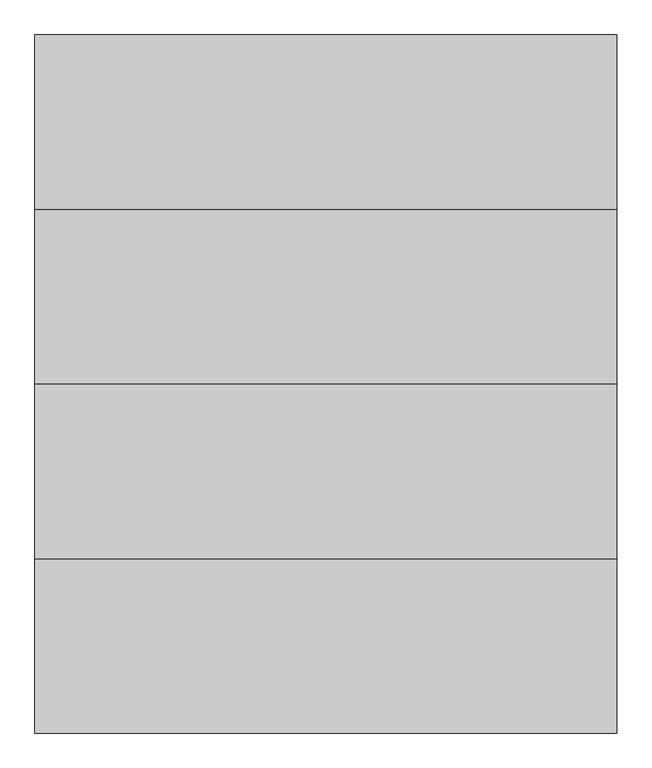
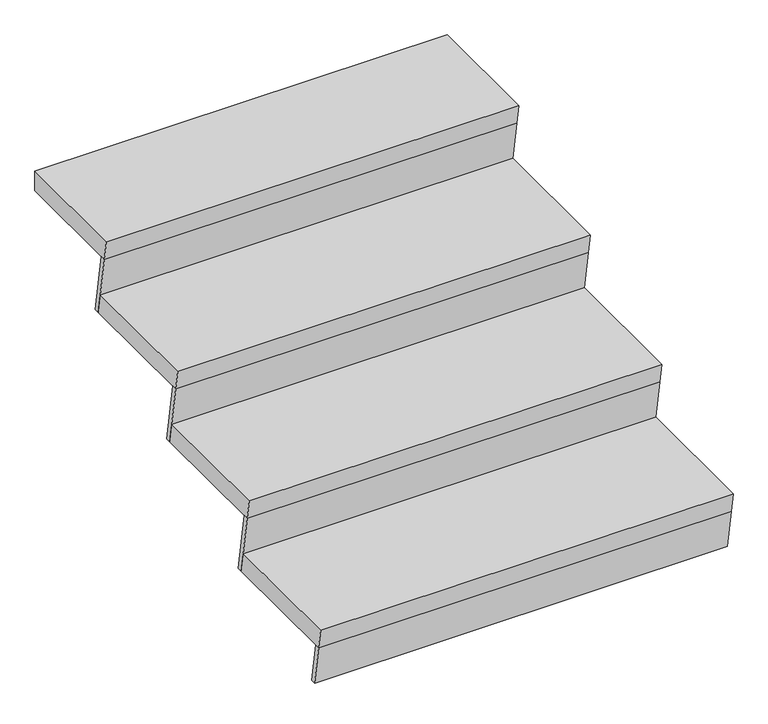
"""IFC4 building model written with IfcOpenShell, lengths in millimetres: stair flight geometry, Проступь 50 мм, свес 25 мм, подступенок 13 мм."""

from ifc_helpers import new_model, si_unit, frame, origin, place, context, project, spatial, polyline, outline, extrude, source, transform, mapped, element, save


def stair_flight_27ba9170(model_context):
    return source(origin(), model_context, "Body", "SweptSolid", [
        extrude(outline(polyline([(4392.3976828, 4650.0), (4717.3976828, 4650.0), (4725.7310161, 4600.0), (4400.7310161, 4600.0), (4392.3976828, 4650.0)])), frame((-12817.2117644, 0.0, 0.0), z_axis=(1.0, 0.0, 0.0), x_axis=(0.0, 1.0, 0.0)), (0.0, 0.0, 1.0), 1000.0),
        extrude(outline(polyline([(4400.7310161, 4600.0), (4413.4034381, 4600.0), (4430.0701047, 4500.0), (4417.3976828, 4500.0), (4400.7310161, 4600.0)])), frame((-12817.2117644, 0.0, 0.0), z_axis=(1.0, 0.0, 0.0), x_axis=(0.0, 1.0, 0.0)), (0.0, 0.0, 1.0), 1000.0),
        extrude(outline(polyline([(4700.7310161, 4750.0), (4713.4034381, 4750.0), (4738.4034381, 4600.0), (4725.7310161, 4600.0), (4700.7310161, 4750.0)])), frame((-12817.2117644, 0.0, 0.0), z_axis=(1.0, 0.0, 0.0), x_axis=(0.0, 1.0, 0.0)), (0.0, 0.0, 1.0), 1000.0),
        extrude(outline(polyline([(4692.3976828, 4800.0), (5017.3976828, 4800.0), (5025.7310161, 4750.0), (4700.7310161, 4750.0), (4692.3976828, 4800.0)])), frame((-12817.2117644, 0.0, 0.0), z_axis=(1.0, 0.0, 0.0), x_axis=(0.0, 1.0, 0.0)), (0.0, 0.0, 1.0), 1000.0),
        extrude(outline(polyline([(5000.7310161, 4900.0), (5013.4034381, 4900.0), (5038.4034381, 4750.0), (5025.7310161, 4750.0), (5000.7310161, 4900.0)])), frame((-12817.2117644, 0.0, 0.0), z_axis=(1.0, 0.0, 0.0), x_axis=(0.0, 1.0, 0.0)), (0.0, 0.0, 1.0), 1000.0),
        extrude(outline(polyline([(4992.3976828, 4950.0), (5317.3976828, 4950.0), (5325.7310161, 4900.0), (5000.7310161, 4900.0), (4992.3976828, 4950.0)])), frame((-12817.2117644, 0.0, 0.0), z_axis=(1.0, 0.0, 0.0), x_axis=(0.0, 1.0, 0.0)), (0.0, 0.0, 1.0), 1000.0),
        extrude(outline(polyline([(5300.7310161, 5050.0), (5313.4034381, 5050.0), (5338.4034381, 4900.0), (5325.7310161, 4900.0), (5300.7310161, 5050.0)])), frame((-12817.2117644, 0.0, 0.0), z_axis=(1.0, 0.0, 0.0), x_axis=(0.0, 1.0, 0.0)), (0.0, 0.0, 1.0), 1000.0),
        extrude(outline(polyline([(5292.3976828, 5100.0), (5592.3976828, 5100.0), (5592.3976828, 5050.0), (5300.7310161, 5050.0), (5292.3976828, 5100.0)])), frame((-12817.2117644, 0.0, 0.0), z_axis=(1.0, 0.0, 0.0), x_axis=(0.0, 1.0, 0.0)), (0.0, 0.0, 1.0), 1000.0),
    ])


if __name__ == "__main__":
    model = new_model("IFC4")
    model_context = context("Model", 3, world=origin())
    ifc_project = project(units=[si_unit("LENGTHUNIT", "METRE", prefix="MILLI")], contexts=[model_context])
    site = spatial("IfcSite", under=ifc_project)
    building = spatial("IfcBuilding", under=site)
    placement = place(None, origin())
    stair_flight_shape = stair_flight_27ba9170(model_context)
    element("IfcStairFlight", 1, ObjectType="Проступь 50 мм, свес 25 мм, подступенок 13 мм", at=placement, inside=building, context=model_context, shape_type="MappedRepresentation", body=[
        mapped(stair_flight_shape, transform((0.0, 0.0, 0.0), x_axis=(1.0, 0.0, 0.0), y_axis=(0.0, 1.0, 0.0), z_axis=(0.0, 0.0, 1.0))),
    ])
    save(model, "model.ifc")
